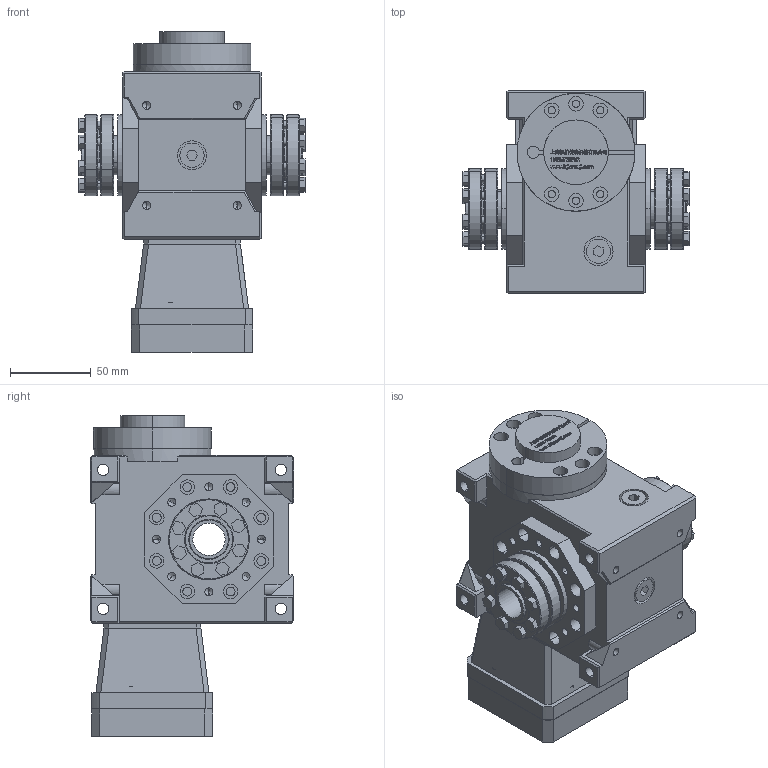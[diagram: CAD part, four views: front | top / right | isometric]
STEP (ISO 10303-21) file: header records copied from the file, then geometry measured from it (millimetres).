
FILE_DESCRIPTION (( 'STEP AP203' ), '1' );
FILE_NAME ('FXLB035-(5~90)-2C-14-50-70-M5¸±±¾.STEP', '2022-11-05T01:56:47', ( '' ), ( '' ), 'SwSTEP 2.0', 'SolidWorks 2020', '' );
FILE_SCHEMA (( 'CONFIG_CONTROL_DESIGN' ));
Products named in the file (1): FXLB035-(5~90)-2C-14-50-70-M5萵掛
Bounding box: 140 x 126 x 198.6 mm (x, y, z)
Volume: 1298563.8 mm3; surface area: 246272.8 mm2
Topology: 14 solids, 14 shells, 2190 faces, 5566 edges, 3608 vertices
Faces by surface type: plane 1174, cylinder 502, bspline 370, cone 98, torus 46
Entity records: 82469 total; most frequent: CARTESIAN_POINT 31272, ORIENTED_EDGE 10992, DIRECTION 9472, EDGE_CURVE 5496, VERTEX_POINT 3608, VECTOR 3564, LINE 3564, AXIS2_PLACEMENT_3D 2954
